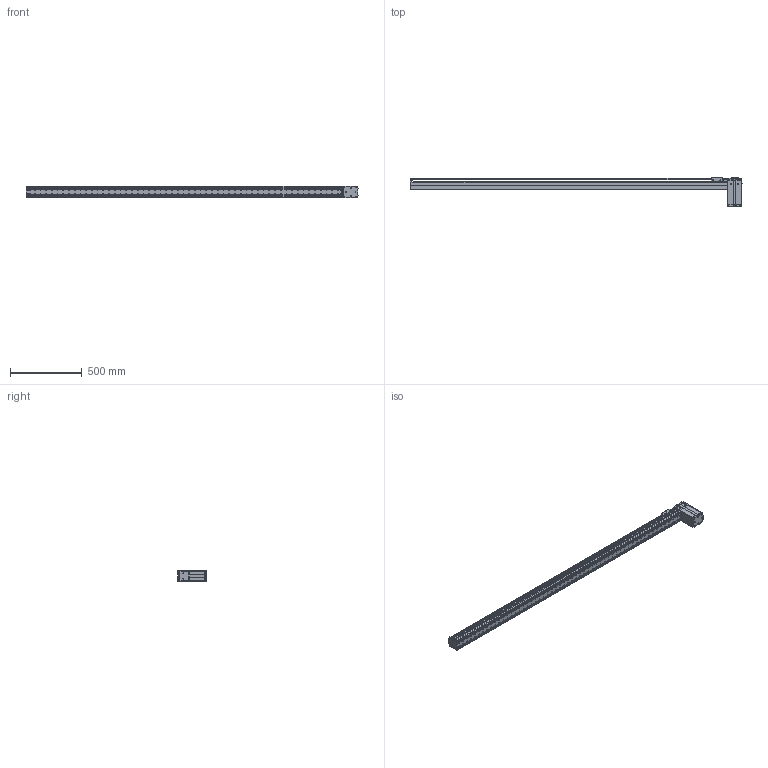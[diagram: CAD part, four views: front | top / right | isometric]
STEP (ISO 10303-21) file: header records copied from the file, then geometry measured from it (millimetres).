
FILE_DESCRIPTION((''),'2;1');
FILE_NAME('BE10_-BU-S_N-L5_IGS_PRT','2017-06-18T',(' '),(''),'PRO/ENGINEER BY PARAMETRIC TECHNOLOGY CORPORATION, 2015030','PRO/ENGINEER BY PARAMETRIC TECHNOLOGY CORPORATION, 2015030','');
FILE_SCHEMA(('CONFIG_CONTROL_DESIGN'));
Products named in the file (1): BE10_-BU-S_N-L5_IGS_PRT
Bounding box: 2320.8 x 202.72 x 78 mm (x, y, z)
Volume: 2949708.6 mm3; surface area: 2094819.9 mm2
Topology: 5 solids, 189 shells, 2364 faces, 6511 edges, 4352 vertices
Faces by surface type: cylinder 1131, plane 1074, cone 103, sphere 28, torus 25, bspline 3
Entity records: 77990 total; most frequent: CARTESIAN_POINT 16184, DIRECTION 13179, ORIENTED_EDGE 12194, EDGE_CURVE 6455, AXIS2_PLACEMENT_3D 4849, VERTEX_POINT 4351, VECTOR 3481, LINE 3481
